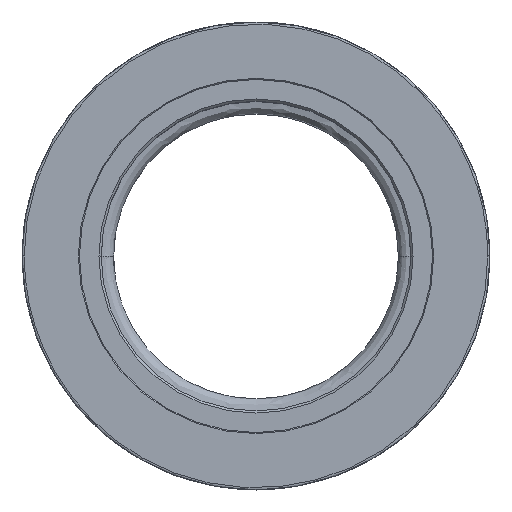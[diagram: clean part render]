
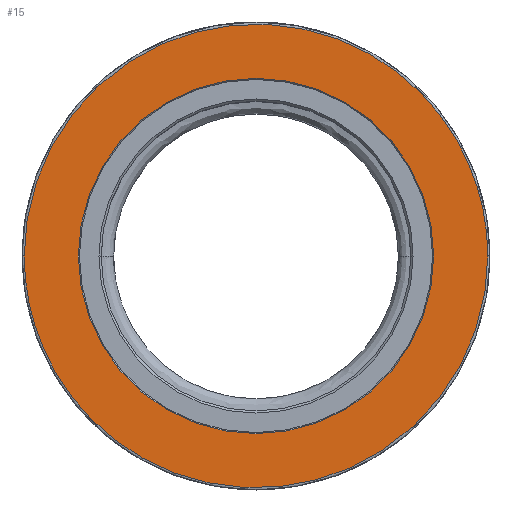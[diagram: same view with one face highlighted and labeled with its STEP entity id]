
A CAD part, top view. The second image highlights one B-rep face of the part: STEP entity #15.
In plain terms, the highlighted planar face has unit normal (0, 0, 1).
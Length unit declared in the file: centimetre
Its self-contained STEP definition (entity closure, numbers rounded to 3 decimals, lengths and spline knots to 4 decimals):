
#15 = ADVANCED_FACE ( 'NONE', ( #15625, #16234 ), #16843, .T. ) ;
#5878 = CARTESIAN_POINT ( 'NONE',  ( 0., 0., 0. ) ) ;
#5880 = DIRECTION ( 'NONE',  ( 0., 0., -1. ) ) ;
#5881 = DIRECTION ( 'NONE',  ( 1., 0., 0. ) ) ;
#10280 = AXIS2_PLACEMENT_3D ( 'NONE', #11942, #11943, #11944 ) ;
#11073 = AXIS2_PLACEMENT_3D ( 'NONE', #5878, #5880, #5881 ) ;
#11942 = CARTESIAN_POINT ( 'NONE',  ( 0., 0., 0. ) ) ;
#11943 = DIRECTION ( 'NONE',  ( 0., 0., -1. ) ) ;
#11944 = DIRECTION ( 'NONE',  ( 1., 0., 0. ) ) ;
#15361 = VERTEX_POINT ( 'NONE', #28254 ) ;
#15468 = VERTEX_POINT ( 'NONE', #28294 ) ;
#15625 = FACE_OUTER_BOUND ( 'NONE', #33073, .T. ) ;
#15914 = VERTEX_POINT ( 'NONE', #28447 ) ;
#16234 = FACE_BOUND ( 'NONE', #32531, .T. ) ;
#16235 = CARTESIAN_POINT ( 'NONE',  ( 2.0701, 0., 0. ) ) ;
#16242 = DIRECTION ( 'NONE',  ( 0., 0., 1. ) ) ;
#16250 = DIRECTION ( 'NONE',  ( 1., 0., 0. ) ) ;
#16640 = VERTEX_POINT ( 'NONE', #28597 ) ;
#16843 = PLANE ( 'NONE',  #31453 ) ;
#17479 =( BOUNDED_CURVE ( )  B_SPLINE_CURVE ( 3, ( #18135, #18134, #18147, #18148 ),
 .UNSPECIFIED., .F., .T. ) 
 B_SPLINE_CURVE_WITH_KNOTS ( ( 4, 4 ),
 ( 0.5, 1. ),
 .UNSPECIFIED. ) 
 CURVE ( )  GEOMETRIC_REPRESENTATION_ITEM ( )  RATIONAL_B_SPLINE_CURVE ( ( 1., 0.333, 0.333, 1. ) ) 
 REPRESENTATION_ITEM ( '' )  );
#18134 = CARTESIAN_POINT ( 'NONE',  ( -2.7178, 5.4356, 0. ) ) ;
#18135 = CARTESIAN_POINT ( 'NONE',  ( -2.7178, 0., 0. ) ) ;
#18147 = CARTESIAN_POINT ( 'NONE',  ( 2.7178, 5.4356, 0. ) ) ;
#18148 = CARTESIAN_POINT ( 'NONE',  ( 2.7178, 0., 0. ) ) ;
#20633 = ORIENTED_EDGE ( 'NONE', *, *, #30868, .F. ) ;
#20714 = ORIENTED_EDGE ( 'NONE', *, *, #31462, .F. ) ;
#20791 = ORIENTED_EDGE ( 'NONE', *, *, #31037, .T. ) ;
#20859 = ORIENTED_EDGE ( 'NONE', *, *, #31495, .T. ) ;
#24604 =( BOUNDED_CURVE ( )  B_SPLINE_CURVE ( 3, ( #25669, #25670, #25675, #25676 ),
 .UNSPECIFIED., .F., .T. ) 
 B_SPLINE_CURVE_WITH_KNOTS ( ( 4, 4 ),
 ( 0., 0.5 ),
 .UNSPECIFIED. ) 
 CURVE ( )  GEOMETRIC_REPRESENTATION_ITEM ( )  RATIONAL_B_SPLINE_CURVE ( ( 1., 0.333, 0.333, 1. ) ) 
 REPRESENTATION_ITEM ( '' )  );
#25669 = CARTESIAN_POINT ( 'NONE',  ( 2.7178, 0., 0. ) ) ;
#25670 = CARTESIAN_POINT ( 'NONE',  ( 2.7178, -5.4356, 0. ) ) ;
#25675 = CARTESIAN_POINT ( 'NONE',  ( -2.7178, -5.4356, 0. ) ) ;
#25676 = CARTESIAN_POINT ( 'NONE',  ( -2.7178, 0., 0. ) ) ;
#28254 = CARTESIAN_POINT ( 'NONE',  ( -2.0828, 0., 0. ) ) ;
#28294 = CARTESIAN_POINT ( 'NONE',  ( 2.0828, 0., 0. ) ) ;
#28447 = CARTESIAN_POINT ( 'NONE',  ( 2.7178, 0., 0. ) ) ;
#28597 = CARTESIAN_POINT ( 'NONE',  ( -2.7178, 0., 0. ) ) ;
#30868 = EDGE_CURVE ( 'NONE', #15914, #16640, #24604, .T. ) ;
#31037 = EDGE_CURVE ( 'NONE', #15468, #15361, #31701, .T. ) ;
#31453 = AXIS2_PLACEMENT_3D ( 'NONE', #16235, #16242, #16250 ) ;
#31462 = EDGE_CURVE ( 'NONE', #16640, #15914, #17479, .T. ) ;
#31495 = EDGE_CURVE ( 'NONE', #15361, #15468, #31972, .T. ) ;
#31701 = CIRCLE ( 'NONE', #11073, 2.0828 ) ;
#31972 = CIRCLE ( 'NONE', #10280, 2.0828 ) ;
#32531 = EDGE_LOOP ( 'NONE', ( #20791, #20859 ) ) ;
#33073 = EDGE_LOOP ( 'NONE', ( #20633, #20714 ) ) ;
